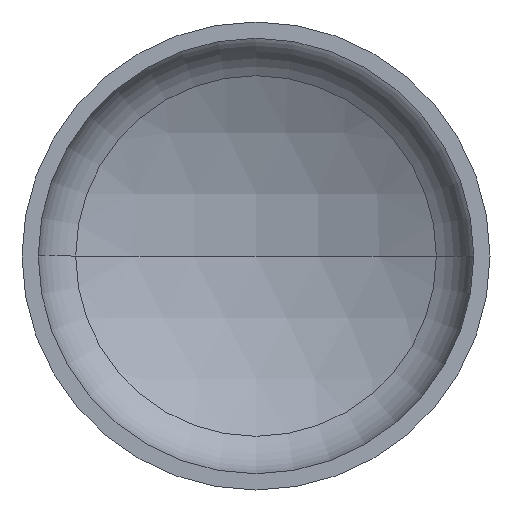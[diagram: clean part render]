
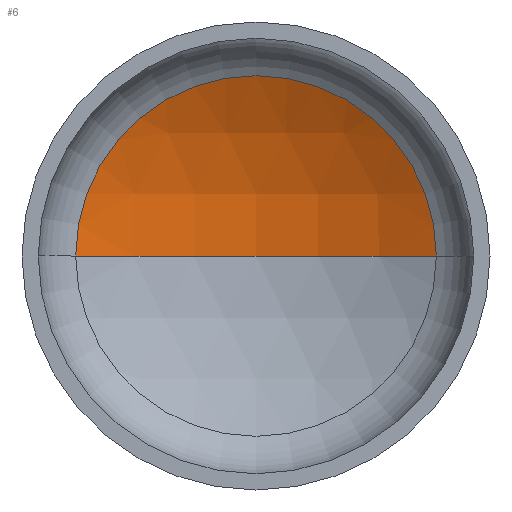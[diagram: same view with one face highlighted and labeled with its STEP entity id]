
A CAD part, front view. The second image highlights one B-rep face of the part: STEP entity #6.
In plain terms, the highlighted spherical face has radius 2720 mm.
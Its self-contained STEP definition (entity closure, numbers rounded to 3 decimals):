
#6 = ADVANCED_FACE ( 'NONE', ( #383 ), #385, .F. ) ;
#8 = CARTESIAN_POINT ( 'NONE',  ( -1309.813, 535.12, 0. ) ) ;
#9 = AXIS2_PLACEMENT_3D ( 'NONE', #290, #102, #304 ) ;
#10 = AXIS2_PLACEMENT_3D ( 'NONE', #218, #56, #157 ) ;
#23 = AXIS2_PLACEMENT_3D ( 'NONE', #187, #136, #332 ) ;
#43 = DIRECTION ( 'NONE',  ( -1., 0., 0. ) ) ;
#50 = CARTESIAN_POINT ( 'NONE',  ( 1309.813, 535.12, 0. ) ) ;
#56 = DIRECTION ( 'NONE',  ( 0., -1., 0. ) ) ;
#71 = AXIS2_PLACEMENT_3D ( 'NONE', #410, #125, #43 ) ;
#102 = DIRECTION ( 'NONE',  ( 0., 0., -1. ) ) ;
#119 = VERTEX_POINT ( 'NONE', #241 ) ;
#125 = DIRECTION ( 'NONE',  ( 0., 0., -1. ) ) ;
#136 = DIRECTION ( 'NONE',  ( 0., 0., 1. ) ) ;
#151 = VERTEX_POINT ( 'NONE', #8 ) ;
#157 = DIRECTION ( 'NONE',  ( 1., 0., 0. ) ) ;
#187 = CARTESIAN_POINT ( 'NONE',  ( 0., -1848.74, 0. ) ) ;
#218 = CARTESIAN_POINT ( 'NONE',  ( 0., 535.12, 0. ) ) ;
#241 = CARTESIAN_POINT ( 'NONE',  ( 0., 871.26, 0. ) ) ;
#242 = CIRCLE ( 'NONE', #23, 2720. ) ;
#244 = ORIENTED_EDGE ( 'NONE', *, *, #341, .T. ) ;
#252 = ORIENTED_EDGE ( 'NONE', *, *, #319, .F. ) ;
#264 = VERTEX_POINT ( 'NONE', #50 ) ;
#290 = CARTESIAN_POINT ( 'NONE',  ( 0., -1848.74, 0. ) ) ;
#304 = DIRECTION ( 'NONE',  ( -1., 0., 0. ) ) ;
#310 = CIRCLE ( 'NONE', #9, 2720. ) ;
#319 = EDGE_CURVE ( 'NONE', #119, #151, #242, .T. ) ;
#331 = EDGE_LOOP ( 'NONE', ( #252, #402, #244 ) ) ;
#332 = DIRECTION ( 'NONE',  ( 1., 0., 0. ) ) ;
#341 = EDGE_CURVE ( 'NONE', #264, #151, #390, .T. ) ;
#343 = EDGE_CURVE ( 'NONE', #119, #264, #310, .T. ) ;
#383 = FACE_OUTER_BOUND ( 'NONE', #331, .T. ) ;
#385 = SPHERICAL_SURFACE ( 'NONE', #71, 2720. ) ;
#390 = CIRCLE ( 'NONE', #10, 1309.813 ) ;
#402 = ORIENTED_EDGE ( 'NONE', *, *, #343, .T. ) ;
#410 = CARTESIAN_POINT ( 'NONE',  ( 0., -1848.74, 0. ) ) ;
